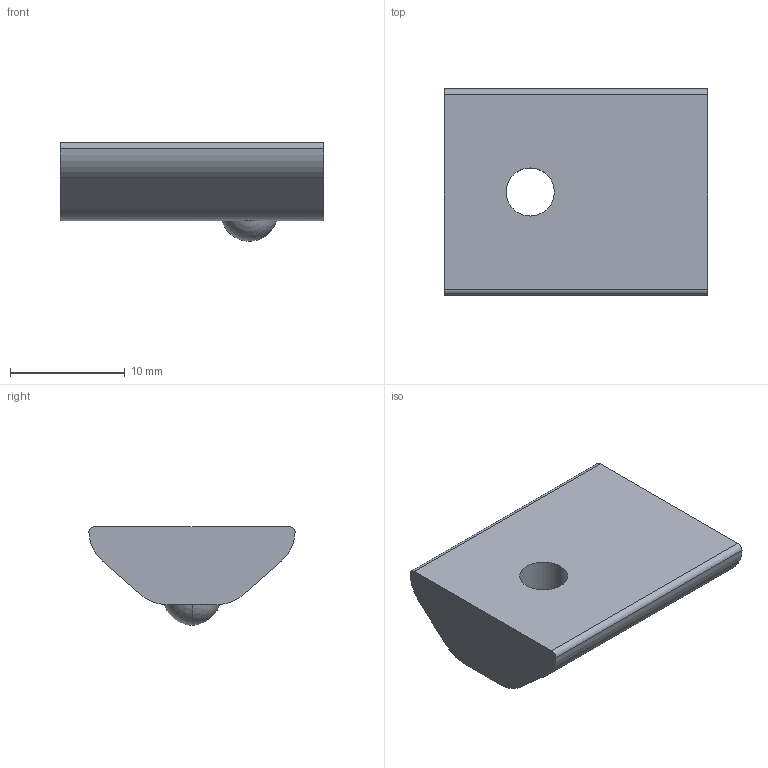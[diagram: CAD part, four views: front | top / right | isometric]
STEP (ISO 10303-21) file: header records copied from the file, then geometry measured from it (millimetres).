
FILE_DESCRIPTION (( 'STEP AP203' ), '1' );
FILE_NAME ('0108NSM5S.STEP', '2024-03-05T08:31:04', ( 'Windows-Benutzer' ), ( '' ), 'SwSTEP 2.0', 'SolidWorks 2023', '' );
FILE_SCHEMA (( 'CONFIG_CONTROL_DESIGN' ));
Length unit declared in the file: millimetre
Products named in the file (1): 0108NSM5S
Bounding box: 23 x 18 x 8.6 mm (x, y, z)
Volume: 2100.3 mm3; surface area: 1239.5 mm2
Topology: 1 solids, 1 shells, 17 faces, 46 edges, 31 vertices
Faces by surface type: cylinder 8, plane 7, sphere 2
Entity records: 641 total; most frequent: CARTESIAN_POINT 109, DIRECTION 102, ORIENTED_EDGE 92, EDGE_CURVE 46, AXIS2_PLACEMENT_3D 40, VERTEX_POINT 31, LINE 22, VECTOR 22
